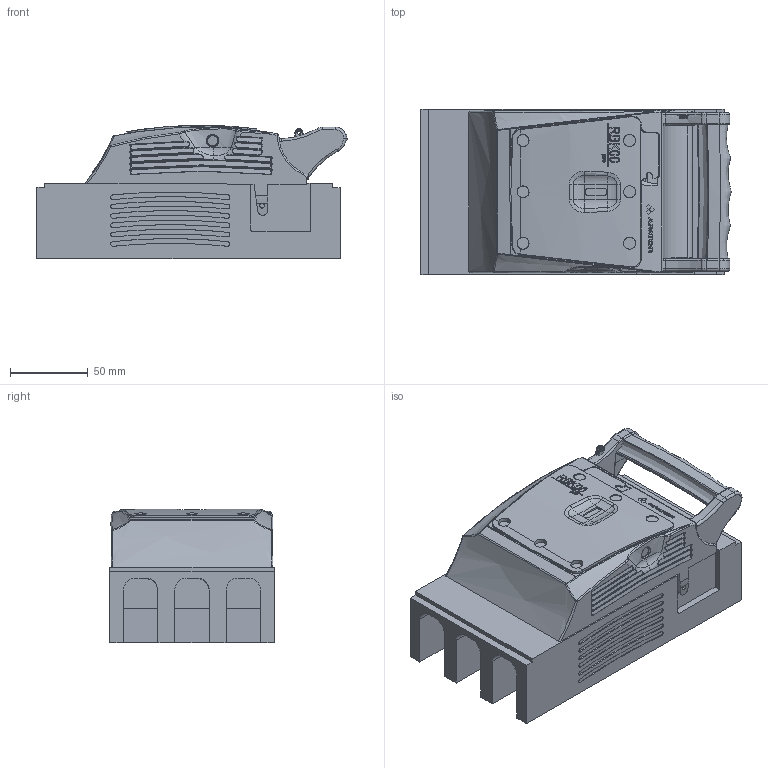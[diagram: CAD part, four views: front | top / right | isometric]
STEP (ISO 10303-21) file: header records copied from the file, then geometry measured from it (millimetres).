
FILE_DESCRIPTION(/* description */ (''),/* implementation_level */ '2;1');
FILE_NAME(/* name */ 'RBK 00 pro-W - 63-823256-141.stp',/* time_stamp */ '2019-03-05T14:52:02+01:00',/* author */ (''),/* organization */ (''),/* preprocessor_version */ 'ST-DEVELOPER v16',/* originating_system */ 'SIEMENS PLM Software NX 10.0',/* authorisation */ '');
FILE_SCHEMA (('AUTOMOTIVE_DESIGN { 1 0 10303 214 3 1 1 1 }'));
Products named in the file (1): 710_1A04BEC5w01m
Bounding box: 199.47 x 106 x 85.77 mm (x, y, z)
Volume: 1232216.9 mm3; surface area: 119039.6 mm2
Topology: 1 solids, 4 shells, 1438 faces, 3998 edges, 2616 vertices
Faces by surface type: plane 846, bspline 230, cylinder 135, cone 104, extrusion 62, torus 37, sphere 18, revolution 6
Full cylindrical faces by diameter (mm): 2.2 x1, 5.2 x4, 6.6 x1
Entity records: 69140 total; most frequent: CARTESIAN_POINT 29436, ORIENTED_EDGE 7890, DIRECTION 7270, EDGE_CURVE 3945, AXIS2_PLACEMENT_3D 2863, VERTEX_POINT 2604, VECTOR 1538, EDGE_LOOP 1533
